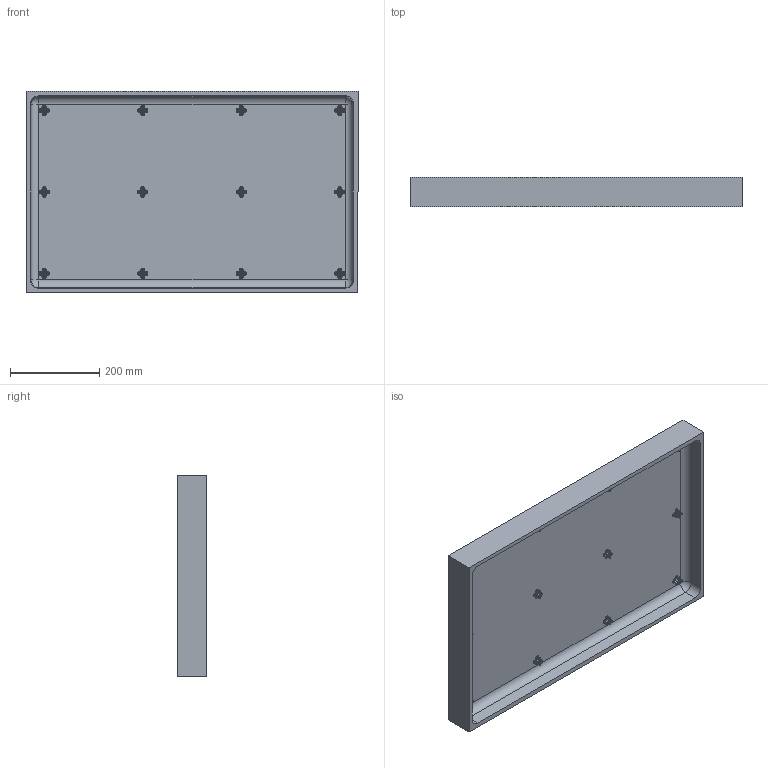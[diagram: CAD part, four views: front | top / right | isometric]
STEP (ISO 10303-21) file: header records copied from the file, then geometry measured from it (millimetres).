
FILE_DESCRIPTION (( 'STEP AP214' ), '1' );
FILE_NAME ('1671 TOP.STEP', '2016-03-01T23:39:59', ( '' ), ( '' ), 'SwSTEP 2.0', 'SolidWorks 2016', '' );
FILE_SCHEMA (( 'AUTOMOTIVE_DESIGN' ));
Length unit declared in the file: inch
Products named in the file (1): 1671 TOP
Bounding box: 744.21 x 66.04 x 451.1 mm (x, y, z)
Volume: 12374082.7 mm3; surface area: 1673846.4 mm2
Topology: 2 solids, 2 shells, 1818 faces, 4461 edges, 2528 vertices
Faces by surface type: bspline 852, cylinder 482, plane 268, torus 136, cone 72, sphere 8
Entity records: 70514 total; most frequent: CARTESIAN_POINT 36406, ORIENTED_EDGE 8626, DIRECTION 5537, EDGE_CURVE 4313, VERTEX_POINT 2528, AXIS2_PLACEMENT_3D 2221, EDGE_LOOP 1847, ADVANCED_FACE 1818
